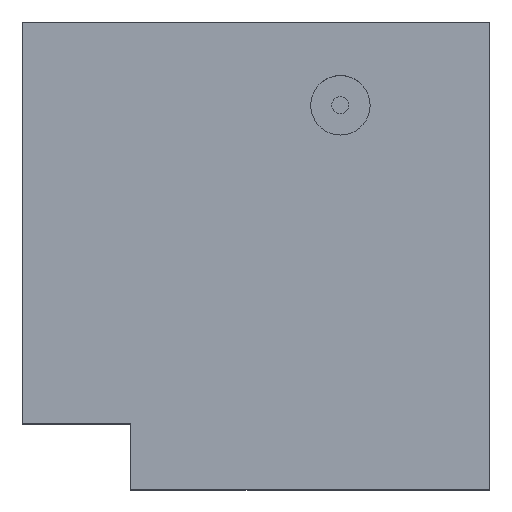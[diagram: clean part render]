
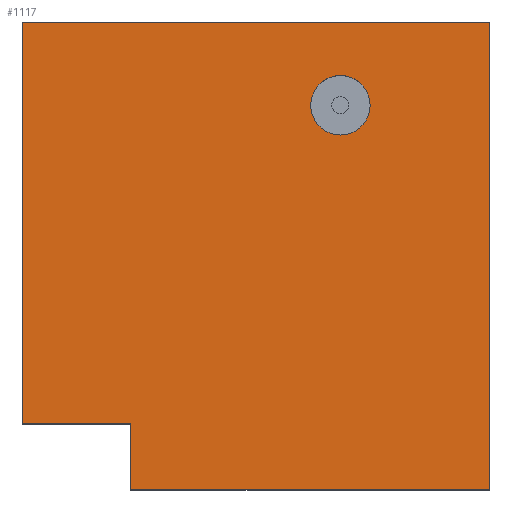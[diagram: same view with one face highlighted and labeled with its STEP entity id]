
A CAD part, top view. The second image highlights one B-rep face of the part: STEP entity #1117.
In plain terms, the highlighted planar face has unit normal (0, 0, 1).
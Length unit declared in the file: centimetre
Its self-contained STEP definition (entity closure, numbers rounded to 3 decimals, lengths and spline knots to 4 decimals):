
#22 = PLANE ( 'NONE',  #521 ) ;
#72 = DIRECTION ( 'NONE',  ( -1., 0., 0. ) ) ;
#117 = DIRECTION ( 'NONE',  ( 1., 0., 0. ) ) ;
#121 = CARTESIAN_POINT ( 'NONE',  ( 1000., 1000., 1000. ) ) ;
#124 = VERTEX_POINT ( 'NONE', #121 ) ;
#144 = DIRECTION ( 'NONE',  ( -1., 0., 0. ) ) ;
#148 = VERTEX_POINT ( 'NONE', #908 ) ;
#152 = CARTESIAN_POINT ( 'NONE',  ( 1000., 1000., 1000. ) ) ;
#161 = CARTESIAN_POINT ( 'NONE',  ( 744.3881, 821.7794, 1000. ) ) ;
#170 = LINE ( 'NONE', #1012, #1444 ) ;
#188 = VECTOR ( 'NONE', #1247, 100. ) ;
#219 = VECTOR ( 'NONE', #745, 100. ) ;
#290 = VERTEX_POINT ( 'NONE', #1485 ) ;
#312 = CARTESIAN_POINT ( 'NONE',  ( 0., 0., 1000. ) ) ;
#347 = VECTOR ( 'NONE', #72, 100. ) ;
#400 = CARTESIAN_POINT ( 'NONE',  ( 0., 1000., 1000. ) ) ;
#429 = LINE ( 'NONE', #441, #347 ) ;
#437 = DIRECTION ( 'NONE',  ( 0., 1., 0. ) ) ;
#441 = CARTESIAN_POINT ( 'NONE',  ( 0., 140.9299, 1000. ) ) ;
#452 = EDGE_CURVE ( 'NONE', #124, #495, #170, .T. ) ;
#459 = VERTEX_POINT ( 'NONE', #161 ) ;
#495 = VERTEX_POINT ( 'NONE', #400 ) ;
#500 = LINE ( 'NONE', #1434, #219 ) ;
#510 = EDGE_LOOP ( 'NONE', ( #931, #1017 ) ) ;
#521 = AXIS2_PLACEMENT_3D ( 'NONE', #998, #1237, #1216 ) ;
#528 = CARTESIAN_POINT ( 'NONE',  ( 680.7259, 821.7794, 1000. ) ) ;
#598 = ORIENTED_EDGE ( 'NONE', *, *, #1528, .T. ) ;
#622 = CIRCLE ( 'NONE', #1403, 63.6622 ) ;
#629 = DIRECTION ( 'NONE',  ( 0., 0., 1. ) ) ;
#643 = FACE_OUTER_BOUND ( 'NONE', #1501, .T. ) ;
#664 = LINE ( 'NONE', #1032, #1330 ) ;
#677 = LINE ( 'NONE', #312, #188 ) ;
#678 = VECTOR ( 'NONE', #748, 100. ) ;
#685 = EDGE_CURVE ( 'NONE', #1088, #1416, #664, .T. ) ;
#745 = DIRECTION ( 'NONE',  ( 0., -1., 0. ) ) ;
#748 = DIRECTION ( 'NONE',  ( 0., 1., 0. ) ) ;
#808 = EDGE_CURVE ( 'NONE', #1088, #900, #677, .T. ) ;
#816 = AXIS2_PLACEMENT_3D ( 'NONE', #949, #1517, #117 ) ;
#844 = ORIENTED_EDGE ( 'NONE', *, *, #808, .T. ) ;
#871 = DIRECTION ( 'NONE',  ( 1., 0., 0. ) ) ;
#878 = CARTESIAN_POINT ( 'NONE',  ( 231.8363, 0., 1000. ) ) ;
#900 = VERTEX_POINT ( 'NONE', #1421 ) ;
#908 = CARTESIAN_POINT ( 'NONE',  ( 0., 140.9299, 1000. ) ) ;
#931 = ORIENTED_EDGE ( 'NONE', *, *, #1146, .F. ) ;
#945 = EDGE_CURVE ( 'NONE', #290, #459, #1042, .T. ) ;
#949 = CARTESIAN_POINT ( 'NONE',  ( 680.7259, 821.7794, 1000. ) ) ;
#998 = CARTESIAN_POINT ( 'NONE',  ( 0., 0., 1000. ) ) ;
#1012 = CARTESIAN_POINT ( 'NONE',  ( 0., 1000., 1000. ) ) ;
#1017 = ORIENTED_EDGE ( 'NONE', *, *, #945, .F. ) ;
#1032 = CARTESIAN_POINT ( 'NONE',  ( 231.8363, 0., 1000. ) ) ;
#1042 = CIRCLE ( 'NONE', #816, 63.6622 ) ;
#1088 = VERTEX_POINT ( 'NONE', #878 ) ;
#1117 = ADVANCED_FACE ( 'NONE', ( #643, #1199 ), #22, .T. ) ;
#1146 = EDGE_CURVE ( 'NONE', #459, #290, #622, .T. ) ;
#1196 = CARTESIAN_POINT ( 'NONE',  ( 231.8363, 140.9299, 1000. ) ) ;
#1199 = FACE_BOUND ( 'NONE', #510, .T. ) ;
#1216 = DIRECTION ( 'NONE',  ( 1., 0., 0. ) ) ;
#1221 = LINE ( 'NONE', #152, #678 ) ;
#1237 = DIRECTION ( 'NONE',  ( 0., 0., 1. ) ) ;
#1247 = DIRECTION ( 'NONE',  ( 1., 0., 0. ) ) ;
#1262 = EDGE_CURVE ( 'NONE', #495, #148, #500, .T. ) ;
#1301 = ORIENTED_EDGE ( 'NONE', *, *, #1262, .T. ) ;
#1322 = EDGE_CURVE ( 'NONE', #1416, #148, #429, .T. ) ;
#1326 = ORIENTED_EDGE ( 'NONE', *, *, #452, .T. ) ;
#1330 = VECTOR ( 'NONE', #437, 100. ) ;
#1403 = AXIS2_PLACEMENT_3D ( 'NONE', #528, #629, #871 ) ;
#1409 = ORIENTED_EDGE ( 'NONE', *, *, #685, .F. ) ;
#1416 = VERTEX_POINT ( 'NONE', #1196 ) ;
#1421 = CARTESIAN_POINT ( 'NONE',  ( 1000., 0., 1000. ) ) ;
#1434 = CARTESIAN_POINT ( 'NONE',  ( 0., 1000., 1000. ) ) ;
#1444 = VECTOR ( 'NONE', #144, 100. ) ;
#1485 = CARTESIAN_POINT ( 'NONE',  ( 617.0637, 821.7794, 1000. ) ) ;
#1501 = EDGE_LOOP ( 'NONE', ( #1526, #1409, #844, #598, #1326, #1301 ) ) ;
#1517 = DIRECTION ( 'NONE',  ( 0., 0., 1. ) ) ;
#1526 = ORIENTED_EDGE ( 'NONE', *, *, #1322, .F. ) ;
#1528 = EDGE_CURVE ( 'NONE', #900, #124, #1221, .T. ) ;
